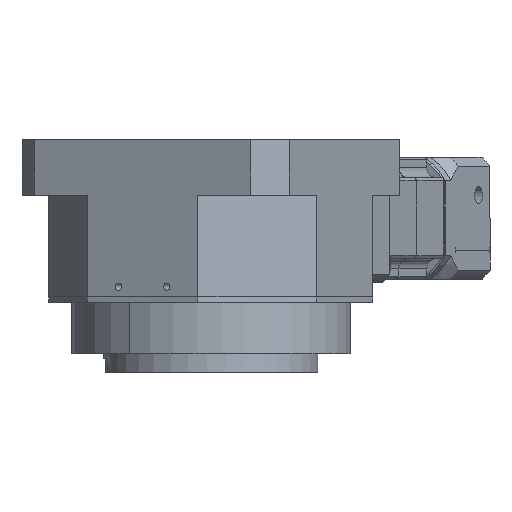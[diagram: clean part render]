
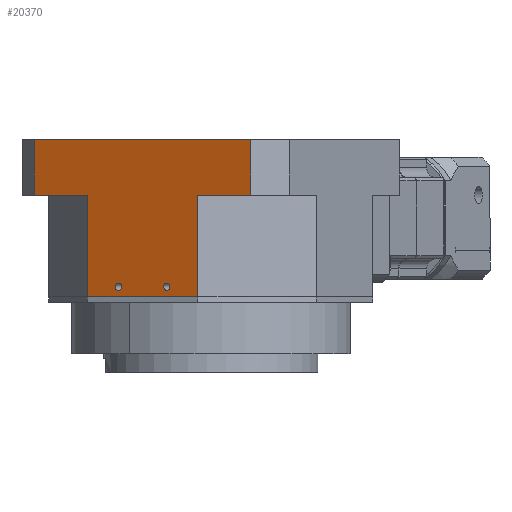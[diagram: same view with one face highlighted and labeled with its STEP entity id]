
A CAD part, left-side view. The second image highlights one B-rep face of the part: STEP entity #20370.
In plain terms, the highlighted planar face has unit normal (-0.89, 0.455, 0) as drawn and (1, 0, 0) by its records, which use the part's own axes.
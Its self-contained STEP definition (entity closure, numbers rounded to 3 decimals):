
#50 = DIRECTION ( 'NONE',  ( 0., 1., 0. ) ) ;
#344 = DIRECTION ( 'NONE',  ( 1., 0., 0. ) ) ;
#427 = VECTOR ( 'NONE', #9910, 1000. ) ;
#540 = EDGE_CURVE ( 'NONE', #43049, #756, #44026, .T. ) ;
#756 = VERTEX_POINT ( 'NONE', #37065 ) ;
#1566 = CARTESIAN_POINT ( 'NONE',  ( 53.5, 42.5, 55. ) ) ;
#2342 = CIRCLE ( 'NONE', #48102, 1.25 ) ;
#3228 = CARTESIAN_POINT ( 'NONE',  ( 53.5, -52.5, 19.5 ) ) ;
#3728 = ORIENTED_EDGE ( 'NONE', *, *, #37032, .T. ) ;
#3795 = VECTOR ( 'NONE', #39558, 1000. ) ;
#5421 = CARTESIAN_POINT ( 'NONE',  ( 53.5, -9.5, 50.25 ) ) ;
#6383 = EDGE_CURVE ( 'NONE', #40524, #8590, #15669, .T. ) ;
#6678 = DIRECTION ( 'NONE',  ( 0., 0., -1. ) ) ;
#7745 = CARTESIAN_POINT ( 'NONE',  ( 53.5, -52.5, 55. ) ) ;
#7980 = EDGE_CURVE ( 'NONE', #8590, #24786, #22691, .T. ) ;
#8075 = DIRECTION ( 'NONE',  ( 0., 0., -1. ) ) ;
#8122 = DIRECTION ( 'NONE',  ( 0., -1., 0. ) ) ;
#8590 = VERTEX_POINT ( 'NONE', #9593 ) ;
#8842 = FACE_BOUND ( 'NONE', #44894, .T. ) ;
#9593 = CARTESIAN_POINT ( 'NONE',  ( 53.5, -21.746, 19.5 ) ) ;
#9910 = DIRECTION ( 'NONE',  ( 0., 1., 0. ) ) ;
#10207 = EDGE_CURVE ( 'NONE', #15915, #47909, #2342, .T. ) ;
#10670 = CARTESIAN_POINT ( 'NONE',  ( 53.5, -52.5, 55. ) ) ;
#12007 = VECTOR ( 'NONE', #8075, 1000. ) ;
#13205 = DIRECTION ( 'NONE',  ( 1., 0., 0. ) ) ;
#14255 = VECTOR ( 'NONE', #6678, 1000. ) ;
#14260 = CARTESIAN_POINT ( 'NONE',  ( 53.5, 21.746, 19.5 ) ) ;
#14806 = CARTESIAN_POINT ( 'NONE',  ( 53.5, -9.5, 52.75 ) ) ;
#14916 = VECTOR ( 'NONE', #19159, 1000. ) ;
#15669 = LINE ( 'NONE', #3228, #16856 ) ;
#15915 = VERTEX_POINT ( 'NONE', #29316 ) ;
#16856 = VECTOR ( 'NONE', #50, 1000. ) ;
#17408 = VECTOR ( 'NONE', #8122, 1000. ) ;
#17536 = DIRECTION ( 'NONE',  ( 1., 0., 0. ) ) ;
#18311 = DIRECTION ( 'NONE',  ( -1., 0., 0. ) ) ;
#18575 = ORIENTED_EDGE ( 'NONE', *, *, #42595, .F. ) ;
#19159 = DIRECTION ( 'NONE',  ( 0., 1., 0. ) ) ;
#19505 = CARTESIAN_POINT ( 'NONE',  ( 53.5, 21.746, 55. ) ) ;
#19839 = ORIENTED_EDGE ( 'NONE', *, *, #21472, .F. ) ;
#20283 = VECTOR ( 'NONE', #31644, 1000. ) ;
#20370 = ADVANCED_FACE ( 'NONE', ( #37920, #8842, #30225 ), #40997, .F. ) ;
#20822 = ORIENTED_EDGE ( 'NONE', *, *, #34502, .F. ) ;
#21472 = EDGE_CURVE ( 'NONE', #28190, #23161, #22419, .T. ) ;
#22419 = CIRCLE ( 'NONE', #48770, 1.25 ) ;
#22691 = LINE ( 'NONE', #31857, #20283 ) ;
#23043 = CARTESIAN_POINT ( 'NONE',  ( 53.5, 9.5, 51.5 ) ) ;
#23161 = VERTEX_POINT ( 'NONE', #5421 ) ;
#23586 = AXIS2_PLACEMENT_3D ( 'NONE', #35994, #13205, #39785 ) ;
#23652 = ORIENTED_EDGE ( 'NONE', *, *, #540, .F. ) ;
#24786 = VERTEX_POINT ( 'NONE', #28693 ) ;
#25601 = LINE ( 'NONE', #33228, #14255 ) ;
#26347 = CARTESIAN_POINT ( 'NONE',  ( 53.5, 9.5, 52.75 ) ) ;
#26868 = DIRECTION ( 'NONE',  ( 0., 0., -1. ) ) ;
#27052 = CARTESIAN_POINT ( 'NONE',  ( 53.5, 0., 0. ) ) ;
#28190 = VERTEX_POINT ( 'NONE', #14806 ) ;
#28693 = CARTESIAN_POINT ( 'NONE',  ( 53.5, -21.746, 55. ) ) ;
#28709 = LINE ( 'NONE', #27052, #17408 ) ;
#28983 = EDGE_CURVE ( 'NONE', #23161, #28190, #37851, .T. ) ;
#29034 = EDGE_LOOP ( 'NONE', ( #3728, #20822, #23652, #39072, #18575, #44100, #37888, #46854 ) ) ;
#29316 = CARTESIAN_POINT ( 'NONE',  ( 53.5, 9.5, 50.25 ) ) ;
#30225 = FACE_BOUND ( 'NONE', #41785, .T. ) ;
#30436 = CARTESIAN_POINT ( 'NONE',  ( 53.5, 21.746, 55. ) ) ;
#30856 = CIRCLE ( 'NONE', #43855, 1.25 ) ;
#31644 = DIRECTION ( 'NONE',  ( 0., 0., 1. ) ) ;
#31845 = LINE ( 'NONE', #35972, #427 ) ;
#31857 = CARTESIAN_POINT ( 'NONE',  ( 53.5, -21.746, 55. ) ) ;
#32084 = CARTESIAN_POINT ( 'NONE',  ( 53.5, -42.5, 19.5 ) ) ;
#32207 = LINE ( 'NONE', #19505, #12007 ) ;
#33228 = CARTESIAN_POINT ( 'NONE',  ( 53.5, -42.5, 55. ) ) ;
#33903 = AXIS2_PLACEMENT_3D ( 'NONE', #10670, #18311, #44775 ) ;
#34092 = ORIENTED_EDGE ( 'NONE', *, *, #10207, .F. ) ;
#34502 = EDGE_CURVE ( 'NONE', #756, #41547, #28709, .T. ) ;
#34523 = ORIENTED_EDGE ( 'NONE', *, *, #28983, .F. ) ;
#35972 = CARTESIAN_POINT ( 'NONE',  ( 53.5, -52.5, 19.5 ) ) ;
#35994 = CARTESIAN_POINT ( 'NONE',  ( 53.5, -9.5, 51.5 ) ) ;
#37032 = EDGE_CURVE ( 'NONE', #40524, #41547, #25601, .T. ) ;
#37065 = CARTESIAN_POINT ( 'NONE',  ( 53.5, 42.5, 0. ) ) ;
#37851 = CIRCLE ( 'NONE', #23586, 1.25 ) ;
#37888 = ORIENTED_EDGE ( 'NONE', *, *, #7980, .F. ) ;
#37920 = FACE_OUTER_BOUND ( 'NONE', #29034, .T. ) ;
#39072 = ORIENTED_EDGE ( 'NONE', *, *, #40055, .F. ) ;
#39558 = DIRECTION ( 'NONE',  ( 0., 0., -1. ) ) ;
#39785 = DIRECTION ( 'NONE',  ( 0., 0., -1. ) ) ;
#40055 = EDGE_CURVE ( 'NONE', #45705, #43049, #31845, .T. ) ;
#40242 = CARTESIAN_POINT ( 'NONE',  ( 53.5, -9.5, 51.5 ) ) ;
#40524 = VERTEX_POINT ( 'NONE', #32084 ) ;
#40997 = PLANE ( 'NONE',  #33903 ) ;
#41045 = DIRECTION ( 'NONE',  ( 0., 0., -1. ) ) ;
#41210 = DIRECTION ( 'NONE',  ( 1., 0., 0. ) ) ;
#41334 = CARTESIAN_POINT ( 'NONE',  ( 53.5, -42.5, 0. ) ) ;
#41544 = CARTESIAN_POINT ( 'NONE',  ( 53.5, 9.5, 51.5 ) ) ;
#41547 = VERTEX_POINT ( 'NONE', #41334 ) ;
#41785 = EDGE_LOOP ( 'NONE', ( #34092, #48423 ) ) ;
#41982 = CARTESIAN_POINT ( 'NONE',  ( 53.5, 42.5, 19.5 ) ) ;
#42595 = EDGE_CURVE ( 'NONE', #45322, #45705, #32207, .T. ) ;
#43049 = VERTEX_POINT ( 'NONE', #41982 ) ;
#43855 = AXIS2_PLACEMENT_3D ( 'NONE', #23043, #344, #26868 ) ;
#44003 = DIRECTION ( 'NONE',  ( 0., 0., -1. ) ) ;
#44026 = LINE ( 'NONE', #1566, #3795 ) ;
#44100 = ORIENTED_EDGE ( 'NONE', *, *, #49108, .F. ) ;
#44775 = DIRECTION ( 'NONE',  ( 0., 0., 1. ) ) ;
#44886 = EDGE_CURVE ( 'NONE', #47909, #15915, #30856, .T. ) ;
#44894 = EDGE_LOOP ( 'NONE', ( #34523, #19839 ) ) ;
#45159 = LINE ( 'NONE', #7745, #14916 ) ;
#45322 = VERTEX_POINT ( 'NONE', #30436 ) ;
#45705 = VERTEX_POINT ( 'NONE', #14260 ) ;
#46854 = ORIENTED_EDGE ( 'NONE', *, *, #6383, .F. ) ;
#47909 = VERTEX_POINT ( 'NONE', #26347 ) ;
#48102 = AXIS2_PLACEMENT_3D ( 'NONE', #41544, #41210, #41045 ) ;
#48423 = ORIENTED_EDGE ( 'NONE', *, *, #44886, .F. ) ;
#48770 = AXIS2_PLACEMENT_3D ( 'NONE', #40242, #17536, #44003 ) ;
#49108 = EDGE_CURVE ( 'NONE', #24786, #45322, #45159, .T. ) ;
